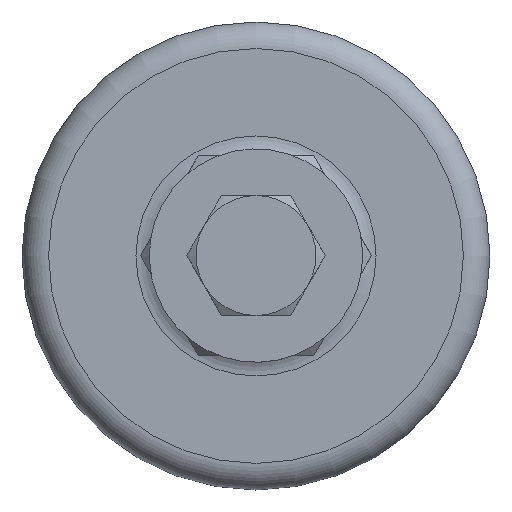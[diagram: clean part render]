
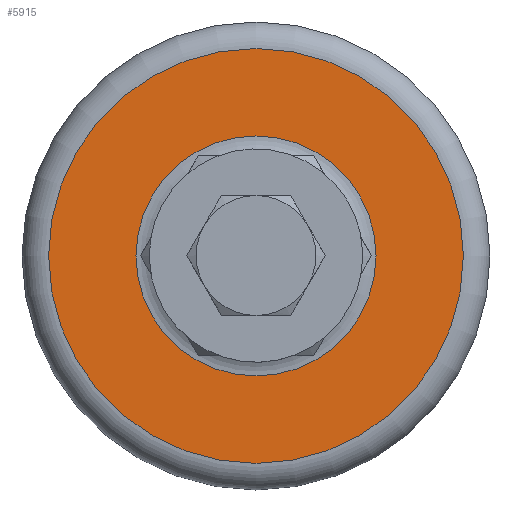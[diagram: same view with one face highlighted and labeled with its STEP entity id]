
A CAD part, top view. The second image highlights one B-rep face of the part: STEP entity #5915.
In plain terms, the highlighted planar face has unit normal (0, 0, 1).
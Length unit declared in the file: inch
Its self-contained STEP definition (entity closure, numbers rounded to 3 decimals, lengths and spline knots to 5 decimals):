
#1414=PLANE('',#6263);
#1645=FACE_BOUND('',#2048,.T.);
#1710=FACE_OUTER_BOUND('',#2047,.T.);
#2047=EDGE_LOOP('',(#3910));
#2048=EDGE_LOOP('',(#3911));
#2446=CIRCLE('',#6262,0.5625);
#2447=CIRCLE('',#6264,0.9719);
#2533=VERTEX_POINT('',#7924);
#2534=VERTEX_POINT('',#7927);
#3089=EDGE_CURVE('',#2533,#2533,#2446,.T.);
#3090=EDGE_CURVE('',#2534,#2534,#2447,.T.);
#3910=ORIENTED_EDGE('',*,*,#3090,.F.);
#3911=ORIENTED_EDGE('',*,*,#3089,.F.);
#5915=ADVANCED_FACE('',(#1710,#1645),#1414,.T.);
#6262=AXIS2_PLACEMENT_3D('',#7925,#6628,#6629);
#6263=AXIS2_PLACEMENT_3D('',#7926,#6630,#6631);
#6264=AXIS2_PLACEMENT_3D('',#7928,#6632,#6633);
#6628=DIRECTION('center_axis',(0.,0.,
1.));
#6629=DIRECTION('ref_axis',(1.,0.,0.));
#6630=DIRECTION('center_axis',(0.,0.,
1.));
#6631=DIRECTION('ref_axis',(1.,0.,0.));
#6632=DIRECTION('center_axis',(0.,0.,
-1.));
#6633=DIRECTION('ref_axis',(-1.,0.,0.));
#7924=CARTESIAN_POINT('',(-0.5625,0.,4.));
#7925=CARTESIAN_POINT('Origin',(0.,0.,
4.));
#7926=CARTESIAN_POINT('Origin',(-0.7047,0.,
4.));
#7927=CARTESIAN_POINT('',(-0.9719,0.,4.));
#7928=CARTESIAN_POINT('Origin',(0.,0.,
4.));
